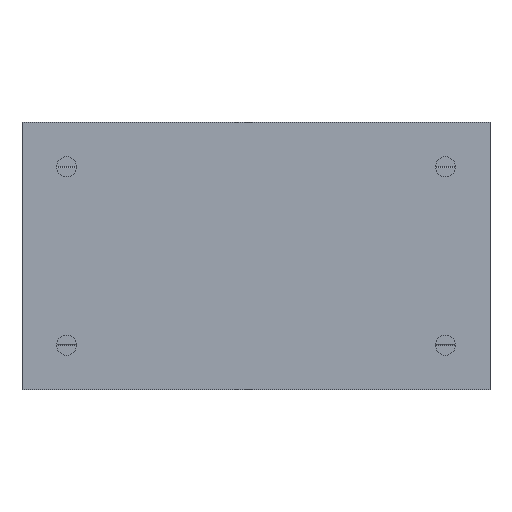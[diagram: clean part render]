
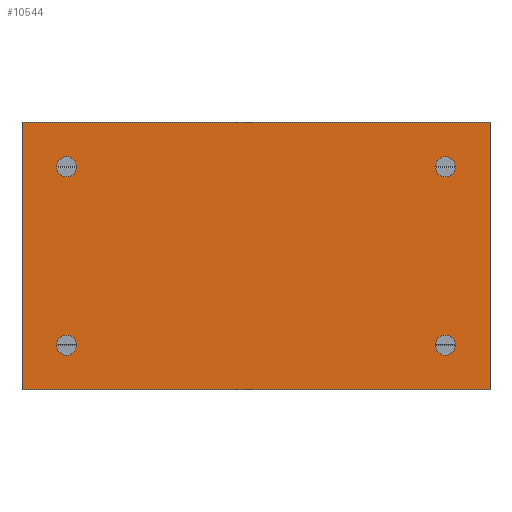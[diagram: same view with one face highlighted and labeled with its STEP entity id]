
A CAD part, front view. The second image highlights one B-rep face of the part: STEP entity #10544.
In plain terms, the highlighted planar face has unit normal (0, -1, 0).
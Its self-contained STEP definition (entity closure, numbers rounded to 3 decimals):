
#374=CIRCLE('',#11160,2.25);
#375=CIRCLE('',#11161,2.25);
#376=CIRCLE('',#11162,2.25);
#377=CIRCLE('',#11163,2.25);
#1088=ORIENTED_EDGE('',*,*,#4345,.T.);
#1089=ORIENTED_EDGE('',*,*,#4346,.F.);
#1090=ORIENTED_EDGE('',*,*,#4347,.F.);
#1091=ORIENTED_EDGE('',*,*,#4348,.F.);
#1092=ORIENTED_EDGE('',*,*,#4298,.T.);
#1093=ORIENTED_EDGE('',*,*,#4349,.F.);
#1094=ORIENTED_EDGE('',*,*,#4350,.F.);
#1095=ORIENTED_EDGE('',*,*,#4343,.T.);
#4298=EDGE_CURVE('',#5933,#5932,#7028,.T.);
#4343=EDGE_CURVE('',#5968,#5933,#7071,.T.);
#4345=EDGE_CURVE('',#5969,#5969,#374,.T.);
#4346=EDGE_CURVE('',#5970,#5970,#375,.T.);
#4347=EDGE_CURVE('',#5971,#5971,#376,.T.);
#4348=EDGE_CURVE('',#5972,#5972,#377,.T.);
#4349=EDGE_CURVE('',#5973,#5932,#7073,.T.);
#4350=EDGE_CURVE('',#5968,#5973,#7074,.T.);
#5932=VERTEX_POINT('',#15882);
#5933=VERTEX_POINT('',#15884);
#5968=VERTEX_POINT('',#15971);
#5969=VERTEX_POINT('',#15975);
#5970=VERTEX_POINT('',#15977);
#5971=VERTEX_POINT('',#15979);
#5972=VERTEX_POINT('',#15981);
#5973=VERTEX_POINT('',#15983);
#7028=LINE('',#15883,#8008);
#7071=LINE('',#15970,#8051);
#7073=LINE('',#15982,#8053);
#7074=LINE('',#15984,#8054);
#8008=VECTOR('',#12415,1000.);
#8051=VECTOR('',#12476,1000.);
#8053=VECTOR('',#12488,1000.);
#8054=VECTOR('',#12489,1000.);
#8973=EDGE_LOOP('',(#1088));
#8974=EDGE_LOOP('',(#1089));
#8975=EDGE_LOOP('',(#1090));
#8976=EDGE_LOOP('',(#1091));
#8977=EDGE_LOOP('',(#1092,#1093,#1094,#1095));
#9625=FACE_BOUND('',#8973,.T.);
#9626=FACE_BOUND('',#8974,.T.);
#9627=FACE_BOUND('',#8975,.T.);
#9628=FACE_BOUND('',#8976,.T.);
#9629=FACE_BOUND('',#8977,.T.);
#10275=PLANE('',#11159);
#10544=ADVANCED_FACE('',(#9625,#9626,#9627,#9628,#9629),#10275,.F.);
#11159=AXIS2_PLACEMENT_3D('',#15973,#12478,#12479);
#11160=AXIS2_PLACEMENT_3D('',#15974,#12480,#12481);
#11161=AXIS2_PLACEMENT_3D('',#15976,#12482,#12483);
#11162=AXIS2_PLACEMENT_3D('',#15978,#12484,#12485);
#11163=AXIS2_PLACEMENT_3D('',#15980,#12486,#12487);
#12415=DIRECTION('',(0.,0.,-1.));
#12476=DIRECTION('',(-1.,0.,0.));
#12478=DIRECTION('',(0.,1.,0.));
#12479=DIRECTION('',(0.,0.,1.));
#12480=DIRECTION('',(0.,1.,0.));
#12481=DIRECTION('',(0.,0.,1.));
#12482=DIRECTION('',(0.,-1.,0.));
#12483=DIRECTION('',(0.,0.,-1.));
#12484=DIRECTION('',(0.,-1.,0.));
#12485=DIRECTION('',(0.,0.,-1.));
#12486=DIRECTION('',(0.,-1.,0.));
#12487=DIRECTION('',(0.,0.,-1.));
#12488=DIRECTION('',(-1.,0.,0.));
#12489=DIRECTION('',(0.,0.,-1.));
#15882=CARTESIAN_POINT('',(0.,0.,-30.));
#15883=CARTESIAN_POINT('',(0.,0.,30.));
#15884=CARTESIAN_POINT('',(0.,0.,30.));
#15970=CARTESIAN_POINT('',(105.,0.,30.));
#15971=CARTESIAN_POINT('',(105.,0.,30.));
#15973=CARTESIAN_POINT('',(105.,0.,30.));
#15974=CARTESIAN_POINT('',(95.,0.,20.));
#15975=CARTESIAN_POINT('',(95.,0.,22.25));
#15976=CARTESIAN_POINT('',(95.,0.,-20.));
#15977=CARTESIAN_POINT('',(95.,0.,-22.25));
#15978=CARTESIAN_POINT('',(10.,0.,-20.));
#15979=CARTESIAN_POINT('',(10.,0.,-22.25));
#15980=CARTESIAN_POINT('',(10.,0.,20.));
#15981=CARTESIAN_POINT('',(10.,0.,17.75));
#15982=CARTESIAN_POINT('',(105.,0.,-30.));
#15983=CARTESIAN_POINT('',(105.,0.,-30.));
#15984=CARTESIAN_POINT('',(105.,0.,30.));
